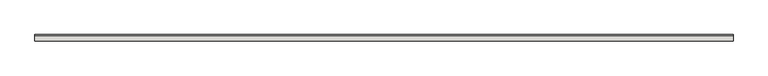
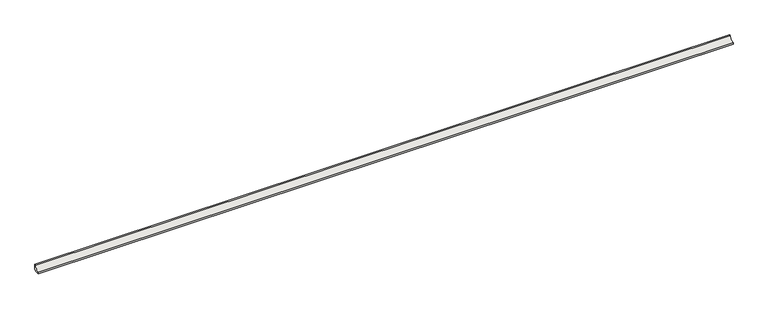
"""IFC4 building model written with IfcOpenShell, lengths in millimetres: slab geometry, ROSA GRES_188 : Pieza 188_Tao_Beige_Liso."""

from ifc_helpers import new_model, si_unit, point, frame, frame_2d, origin, place, context, project, spatial, polyline, circle_curve, trimmed, segment, composite_curve, outline, extrude, source, transform, mapped, element, save


def slab_d7a6919b(model_context):
    return source(origin(), model_context, "Body", "SweptSolid", [
        extrude(outline(composite_curve([segment(polyline([(0.0, 8.7114978), (-8.7114978, 0.0), (-40.0, 0.0), (-40.0, 9.9734114)]), True, "CONTINUOUS"), segment(trimmed(circle_curve(frame_2d((-39.9955547, 39.9955547)), 30.0221435), [point((-40.0, 9.9734114))], [point((-9.9734114, 40.0))], True, "CARTESIAN"), True, "CONTINUOUS"), segment(polyline([(-9.9734114, 40.0), (0.0, 40.0), (0.0, 8.7114978)]), True, "CONTINUOUS")], self_intersect=False)), frame((0.0, 0.0, 0.0), z_axis=(1.0, 0.0, 0.0), x_axis=(0.0, 1.0, 0.0)), (0.0, 0.0, 1.0), 4510.0),
    ])


if __name__ == "__main__":
    model = new_model("IFC4")
    model_context = context("Model", 3, world=origin())
    ifc_project = project(units=[si_unit("LENGTHUNIT", "METRE", prefix="MILLI")], contexts=[model_context])
    site = spatial("IfcSite", under=ifc_project)
    building = spatial("IfcBuilding", under=site)
    placement = place(None, origin())
    slab_shape = slab_d7a6919b(model_context)
    element("IfcSlab", 1, ObjectType="ROSA GRES_188 : Pieza 188_Tao_Beige_Liso", at=placement, inside=building, context=model_context, shape_type="MappedRepresentation", body=[
        mapped(slab_shape, transform((0.0, 0.0, 0.0), x_axis=(1.0, 0.0, 0.0), y_axis=(0.0, 1.0, 0.0), z_axis=(0.0, 0.0, 1.0))),
    ])
    save(model, "model.ifc")
